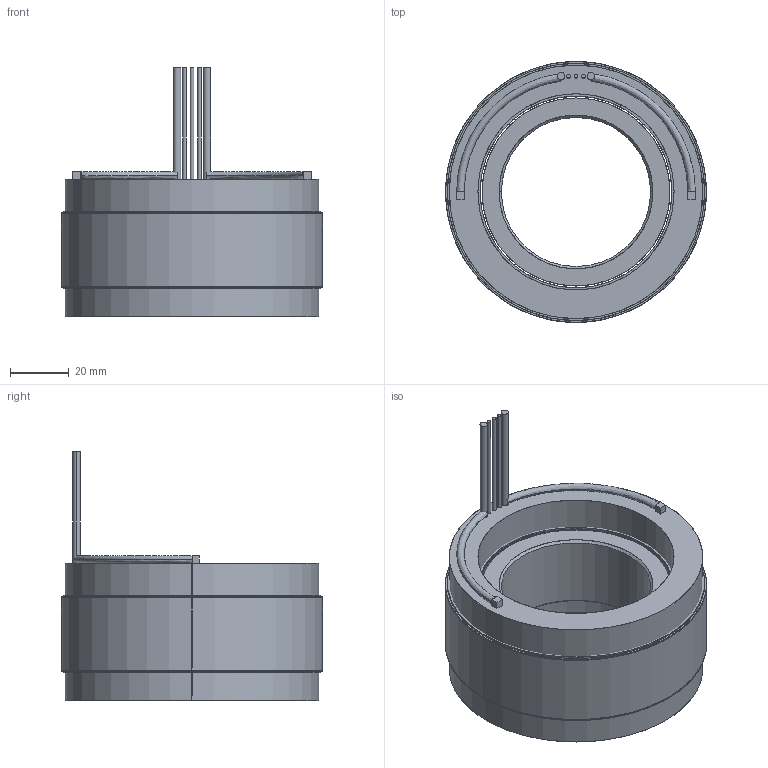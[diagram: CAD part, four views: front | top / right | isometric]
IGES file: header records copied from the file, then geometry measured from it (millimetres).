
Start section: SolidWorks IGES file using analytic representation for surfaces
Global section: file name: \\fs01.aveox.local\user documents\eng\My Documents\STANDARD STATOR ROTOR SETS\Standard rotor and stator set released\NEW DIRECT DRIVE MOTOR\3.5 OD 18S16P\6100378-01.IGS; native system: SolidWorks 2016; preprocessor: SolidWorks 2016; author: eng; date: 200623.090012; units: inch
Bounding box: 88.9 x 88.9 x 84.84 mm (x, y, z)
Surface area: 81355.4 mm2 (no closed solid volume)
Topology: 0 solids, 0 shells, 81 faces, 2376 edges, 2376 vertices
Faces by surface type: revolution 42, bspline 39
